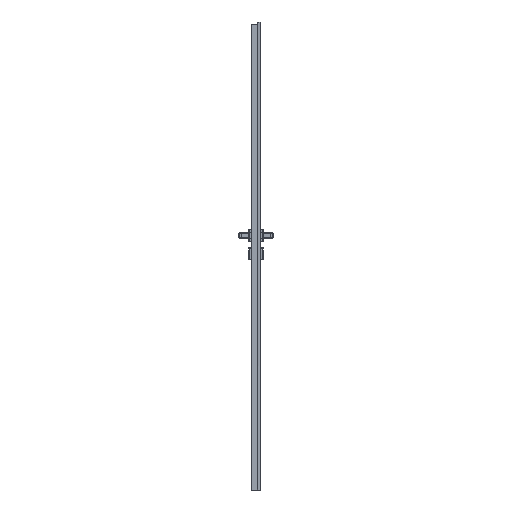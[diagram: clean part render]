
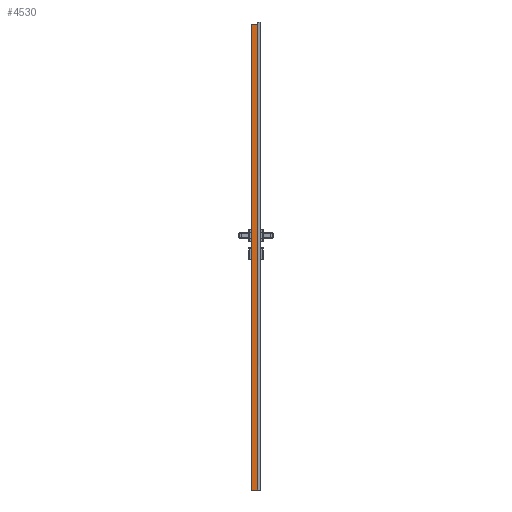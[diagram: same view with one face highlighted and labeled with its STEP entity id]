
A CAD part, left-side view. The second image highlights one B-rep face of the part: STEP entity #4530.
In plain terms, the highlighted planar face has unit normal (-1, 0, 0).
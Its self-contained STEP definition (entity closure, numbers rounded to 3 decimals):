
#2883=CIRCLE('',#54563,1.49);
#4530=ADVANCED_FACE('',(#9355),#7343,.T.);
#7343=PLANE('',#54564);
#9355=FACE_OUTER_BOUND('',#12367,.T.);
#12367=EDGE_LOOP('',(#16873,#16874,#16875,#16876,#16877));
#16873=ORIENTED_EDGE('',*,*,#36474,.T.);
#16874=ORIENTED_EDGE('',*,*,#36472,.T.);
#16875=ORIENTED_EDGE('',*,*,#36475,.T.);
#16876=ORIENTED_EDGE('',*,*,#36476,.F.);
#16877=ORIENTED_EDGE('',*,*,#36477,.T.);
#31225=VERTEX_POINT('',#78665);
#31226=VERTEX_POINT('',#78667);
#31227=VERTEX_POINT('',#78671);
#31228=VERTEX_POINT('',#78673);
#31229=VERTEX_POINT('',#78675);
#36472=EDGE_CURVE('',#31226,#31225,#43801,.T.);
#36474=EDGE_CURVE('',#31227,#31226,#43802,.T.);
#36475=EDGE_CURVE('',#31225,#31228,#43803,.T.);
#36476=EDGE_CURVE('',#31229,#31228,#43804,.T.);
#36477=EDGE_CURVE('',#31229,#31227,#2883,.T.);
#43801=LINE('',#78666,#49148);
#43802=LINE('',#78670,#49149);
#43803=LINE('',#78672,#49150);
#43804=LINE('',#78674,#49151);
#49148=VECTOR('',#60582,1.);
#49149=VECTOR('',#60587,1.);
#49150=VECTOR('',#60588,1.);
#49151=VECTOR('',#60589,1.);
#54563=AXIS2_PLACEMENT_3D('',#78676,#60590,#60591);
#54564=AXIS2_PLACEMENT_3D('',#78677,#60592,#60593);
#60582=DIRECTION('',(0.,0.,-1.));
#60587=DIRECTION('',(0.,1.,0.));
#60588=DIRECTION('',(0.,-1.,0.));
#60589=DIRECTION('',(0.,0.,-1.));
#60590=DIRECTION('',(1.,0.,0.));
#60591=DIRECTION('',(0.,0.,1.));
#60592=DIRECTION('',(-1.,0.,0.));
#60593=DIRECTION('',(0.,-1.,0.));
#78665=CARTESIAN_POINT('',(-309.,-1.65,0.));
#78666=CARTESIAN_POINT('',(-309.,-1.65,0.));
#78667=CARTESIAN_POINT('',(-309.,-1.65,2017.01));
#78670=CARTESIAN_POINT('',(-309.,0.,2017.01));
#78671=CARTESIAN_POINT('',(-309.,-24.2,2017.01));
#78672=CARTESIAN_POINT('',(-309.,-1.65,0.));
#78673=CARTESIAN_POINT('',(-309.,-24.65,0.));
#78674=CARTESIAN_POINT('',(-309.,-24.65,0.));
#78675=CARTESIAN_POINT('',(-309.,-24.649,2017.071));
#78676=CARTESIAN_POINT('',(-309.,-24.2,2018.5));
#78677=CARTESIAN_POINT('',(-309.,-1.65,0.));
